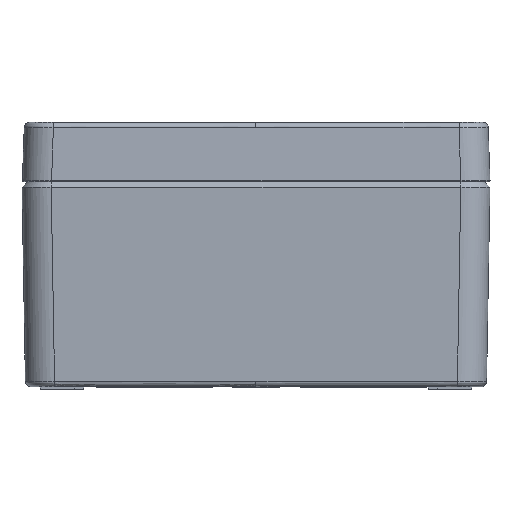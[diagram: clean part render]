
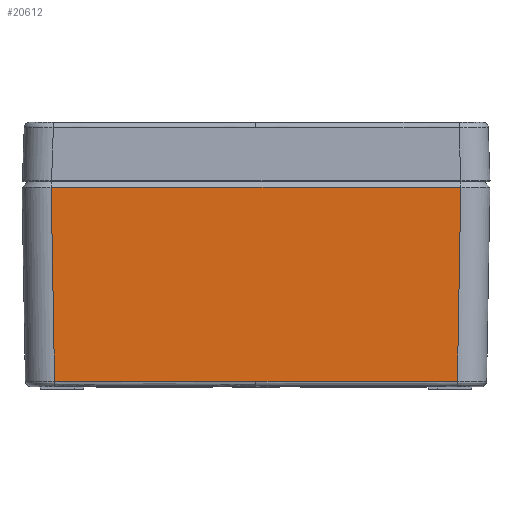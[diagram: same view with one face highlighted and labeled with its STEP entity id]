
A CAD part, left-side view. The second image highlights one B-rep face of the part: STEP entity #20612.
In plain terms, the highlighted planar face has unit normal (-1, 0, -0.018).
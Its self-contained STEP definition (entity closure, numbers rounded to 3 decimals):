
#434 = EDGE_CURVE ( 'NONE', #96572, #34969, #97843, .T. ) ;
#2147 = CARTESIAN_POINT ( 'NONE',  ( -78.852, -35.122, -68.335 ) ) ;
#2203 = VERTEX_POINT ( 'NONE', #78192 ) ;
#5636 = VECTOR ( 'NONE', #78237, 1000. ) ;
#6268 = CARTESIAN_POINT ( 'NONE',  ( -78.852, 69.016, -68.335 ) ) ;
#7602 = CARTESIAN_POINT ( 'NONE',  ( -78.852, 0., -68.335 ) ) ;
#7771 = VERTEX_POINT ( 'NONE', #47517 ) ;
#8194 = ORIENTED_EDGE ( 'NONE', *, *, #89645, .T. ) ;
#9638 = FACE_OUTER_BOUND ( 'NONE', #13905, .T. ) ;
#10833 = B_SPLINE_CURVE_WITH_KNOTS ( 'NONE', 3,
 ( #13227, #35244, #20379, #66993 ),
 .UNSPECIFIED., .F., .F.,
 ( 4, 4 ),
 ( 0., 1. ),
 .UNSPECIFIED. ) ;
#13227 = CARTESIAN_POINT ( 'NONE',  ( -78.852, -69.016, -68.335 ) ) ;
#13905 = EDGE_LOOP ( 'NONE', ( #48285, #98653, #8194, #75962, #56899, #39295 ) ) ;
#14400 = CARTESIAN_POINT ( 'NONE',  ( -79.431, 69.595, -35.15 ) ) ;
#17731 = VERTEX_POINT ( 'NONE', #6268 ) ;
#20111 = PLANE ( 'NONE',  #48321 ) ;
#20355 = VECTOR ( 'NONE', #47621, 1000. ) ;
#20379 = CARTESIAN_POINT ( 'NONE',  ( -79.624, -69.788, -24.111 ) ) ;
#20612 = ADVANCED_FACE ( 'NONE', ( #9638 ), #20111, .F. ) ;
#22342 = VECTOR ( 'NONE', #60068, 1000. ) ;
#22534 = EDGE_CURVE ( 'NONE', #56530, #17731, #87269, .T. ) ;
#25165 = EDGE_CURVE ( 'NONE', #7771, #34969, #91695, .T. ) ;
#25580 = VECTOR ( 'NONE', #73444, 1000. ) ;
#31310 = VECTOR ( 'NONE', #88041, 1000. ) ;
#33949 = CARTESIAN_POINT ( 'NONE',  ( -80.01, -4.77, -2. ) ) ;
#34969 = VERTEX_POINT ( 'NONE', #67286 ) ;
#35244 = CARTESIAN_POINT ( 'NONE',  ( -79.238, -69.402, -46.223 ) ) ;
#39295 = ORIENTED_EDGE ( 'NONE', *, *, #72062, .F. ) ;
#40458 = EDGE_CURVE ( 'NONE', #56530, #2203, #68614, .T. ) ;
#47517 = CARTESIAN_POINT ( 'NONE',  ( -80.01, 70.174, -2. ) ) ;
#47621 = DIRECTION ( 'NONE',  ( 0., -1., 0. ) ) ;
#48285 = ORIENTED_EDGE ( 'NONE', *, *, #22534, .F. ) ;
#48321 = AXIS2_PLACEMENT_3D ( 'NONE', #89715, #67055, #90046 ) ;
#55041 = CARTESIAN_POINT ( 'NONE',  ( -80.01, 4.77, -2. ) ) ;
#56530 = VERTEX_POINT ( 'NONE', #7602 ) ;
#56899 = ORIENTED_EDGE ( 'NONE', *, *, #25165, .F. ) ;
#60068 = DIRECTION ( 'NONE',  ( -0.017, 0.017, 1. ) ) ;
#66993 = CARTESIAN_POINT ( 'NONE',  ( -80.01, -70.174, -2. ) ) ;
#67055 = DIRECTION ( 'NONE',  ( 1., 0., 0.017 ) ) ;
#67286 = CARTESIAN_POINT ( 'NONE',  ( -80.01, 0., -2. ) ) ;
#68614 = LINE ( 'NONE', #2147, #5636 ) ;
#72062 = EDGE_CURVE ( 'NONE', #17731, #7771, #84036, .T. ) ;
#73444 = DIRECTION ( 'NONE',  ( 0., 1., 0. ) ) ;
#75962 = ORIENTED_EDGE ( 'NONE', *, *, #434, .T. ) ;
#78192 = CARTESIAN_POINT ( 'NONE',  ( -78.852, -69.016, -68.335 ) ) ;
#78237 = DIRECTION ( 'NONE',  ( 0., -1., 0. ) ) ;
#84036 = LINE ( 'NONE', #14400, #22342 ) ;
#87269 = LINE ( 'NONE', #89635, #25580 ) ;
#88041 = DIRECTION ( 'NONE',  ( 0., 1., 0. ) ) ;
#89635 = CARTESIAN_POINT ( 'NONE',  ( -78.852, 33.018, -68.335 ) ) ;
#89645 = EDGE_CURVE ( 'NONE', #2203, #96572, #10833, .T. ) ;
#89715 = CARTESIAN_POINT ( 'NONE',  ( -81.79, 99.815, 99.985 ) ) ;
#90046 = DIRECTION ( 'NONE',  ( 0., -1., 0. ) ) ;
#91695 = LINE ( 'NONE', #55041, #20355 ) ;
#94541 = CARTESIAN_POINT ( 'NONE',  ( -80.01, -70.174, -2. ) ) ;
#96572 = VERTEX_POINT ( 'NONE', #94541 ) ;
#97843 = LINE ( 'NONE', #33949, #31310 ) ;
#98653 = ORIENTED_EDGE ( 'NONE', *, *, #40458, .T. ) ;
